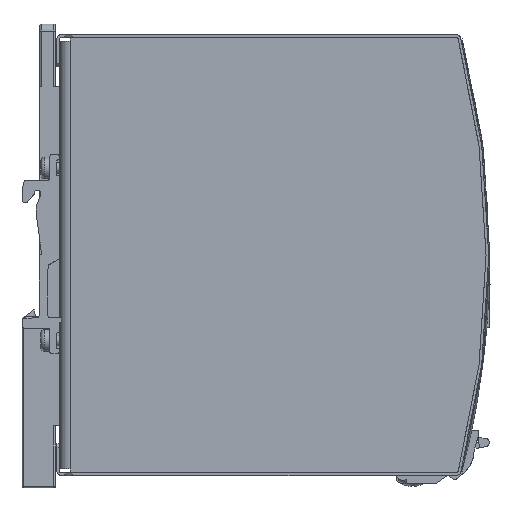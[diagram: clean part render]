
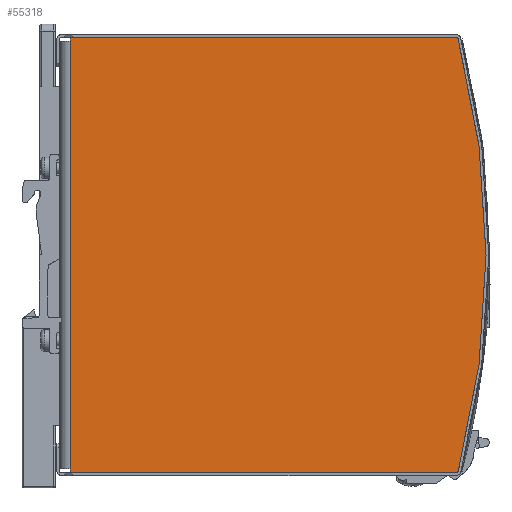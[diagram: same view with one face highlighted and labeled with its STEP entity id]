
A CAD part, front view. The second image highlights one B-rep face of the part: STEP entity #55318.
In plain terms, the highlighted planar face has unit normal (0, -1, 0) as drawn and (-1, 0, 0) by its records, which use the part's own axes.
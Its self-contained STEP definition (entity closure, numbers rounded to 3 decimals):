
#1364=LINE('',#75001,#8129);
#1368=LINE('',#75010,#8133);
#1374=LINE('',#75024,#8139);
#1377=LINE('',#75034,#8142);
#1388=LINE('',#75059,#8153);
#1395=LINE('',#75077,#8160);
#1396=LINE('',#75085,#8161);
#8129=VECTOR('',#61566,0.1);
#8133=VECTOR('',#61574,1.);
#8139=VECTOR('',#61584,1.);
#8142=VECTOR('',#61593,0.1);
#8153=VECTOR('',#61612,108.593);
#8160=VECTOR('',#61633,120.3);
#8161=VECTOR('',#61642,108.593);
#14889=PLANE('',#58206);
#18089=FACE_OUTER_BOUND('',#20955,.T.);
#20955=EDGE_LOOP('',(#38961,#38962,#38963,#38964,#38965,#38966,#38967,#38968,
#38969,#38970));
#24665=CIRCLE('',#58207,0.5);
#24666=CIRCLE('',#58208,240.);
#24667=CIRCLE('',#58209,0.5);
#25345=VERTEX_POINT('',#74998);
#25346=VERTEX_POINT('',#75000);
#25349=VERTEX_POINT('',#75008);
#25354=VERTEX_POINT('',#75021);
#25355=VERTEX_POINT('',#75023);
#25359=VERTEX_POINT('',#75032);
#25369=VERTEX_POINT('',#75057);
#25374=VERTEX_POINT('',#75079);
#25375=VERTEX_POINT('',#75081);
#25376=VERTEX_POINT('',#75083);
#30779=EDGE_CURVE('',#25346,#25345,#1364,.T.);
#30784=EDGE_CURVE('',#25345,#25349,#1368,.T.);
#30790=EDGE_CURVE('',#25355,#25354,#1374,.T.);
#30795=EDGE_CURVE('',#25354,#25359,#1377,.T.);
#30808=EDGE_CURVE('',#25349,#25369,#1388,.T.);
#30818=EDGE_CURVE('',#25346,#25359,#1395,.T.);
#30819=EDGE_CURVE('',#25374,#25369,#24665,.T.);
#30820=EDGE_CURVE('',#25374,#25375,#24666,.T.);
#30821=EDGE_CURVE('',#25376,#25375,#24667,.T.);
#30822=EDGE_CURVE('',#25376,#25355,#1396,.T.);
#38961=ORIENTED_EDGE('',*,*,#30779,.T.);
#38962=ORIENTED_EDGE('',*,*,#30784,.T.);
#38963=ORIENTED_EDGE('',*,*,#30808,.T.);
#38964=ORIENTED_EDGE('',*,*,#30819,.F.);
#38965=ORIENTED_EDGE('',*,*,#30820,.T.);
#38966=ORIENTED_EDGE('',*,*,#30821,.F.);
#38967=ORIENTED_EDGE('',*,*,#30822,.T.);
#38968=ORIENTED_EDGE('',*,*,#30790,.T.);
#38969=ORIENTED_EDGE('',*,*,#30795,.T.);
#38970=ORIENTED_EDGE('',*,*,#30818,.F.);
#55318=ADVANCED_FACE('',(#18089),#14889,.T.);
#58206=AXIS2_PLACEMENT_3D('',#75078,#61634,#61635);
#58207=AXIS2_PLACEMENT_3D('',#75080,#61636,#61637);
#58208=AXIS2_PLACEMENT_3D('',#75082,#61638,#61639);
#58209=AXIS2_PLACEMENT_3D('',#75084,#61640,#61641);
#61566=DIRECTION('',(0.,0.,-1.));
#61574=DIRECTION('',(0.,1.,0.));
#61584=DIRECTION('',(0.,1.,0.));
#61593=DIRECTION('',(0.,0.,1.));
#61612=DIRECTION('',(0.,0.,-1.));
#61633=DIRECTION('',(0.,-1.,0.));
#61634=DIRECTION('center_axis',(-1.,0.,0.));
#61635=DIRECTION('ref_axis',(0.,0.,1.));
#61636=DIRECTION('center_axis',(1.,0.,0.));
#61637=DIRECTION('ref_axis',(0.,0.792,-0.611));
#61638=DIRECTION('center_axis',(-1.,0.,0.));
#61639=DIRECTION('ref_axis',(0.,0.,1.));
#61640=DIRECTION('center_axis',(1.,0.,0.));
#61641=DIRECTION('ref_axis',(0.,-0.792,-0.611));
#61642=DIRECTION('',(0.,0.,1.));
#74998=CARTESIAN_POINT('',(-32.5,60.15,-1.6));
#75000=CARTESIAN_POINT('',(-32.5,60.15,-1.5));
#75001=CARTESIAN_POINT('',(-32.5,60.15,1.5));
#75008=CARTESIAN_POINT('',(-32.5,61.15,-1.6));
#75010=CARTESIAN_POINT('',(-32.5,-0.25,-1.6));
#75021=CARTESIAN_POINT('',(-32.5,-60.15,-1.6));
#75023=CARTESIAN_POINT('',(-32.5,-61.15,-1.6));
#75024=CARTESIAN_POINT('',(-32.5,-60.9,-1.6));
#75032=CARTESIAN_POINT('',(-32.5,-60.15,-1.5));
#75034=CARTESIAN_POINT('',(-32.5,-60.15,1.5));
#75057=CARTESIAN_POINT('',(-32.5,61.15,-110.193));
#75059=CARTESIAN_POINT('',(-32.5,61.15,-128.5));
#75077=CARTESIAN_POINT('',(-32.5,-61.15,-1.5));
#75078=CARTESIAN_POINT('Origin',(-32.5,-61.15,1.5));
#75079=CARTESIAN_POINT('',(-32.5,60.777,-110.677));
#75080=CARTESIAN_POINT('Origin',(-32.5,60.65,-110.193));
#75081=CARTESIAN_POINT('',(-32.5,-60.777,-110.677));
#75082=CARTESIAN_POINT('Origin',(-32.5,0.,121.5));
#75083=CARTESIAN_POINT('',(-32.5,-61.15,-110.193));
#75084=CARTESIAN_POINT('Origin',(-32.5,-60.65,-110.193));
#75085=CARTESIAN_POINT('',(-32.5,-61.15,-128.5));
